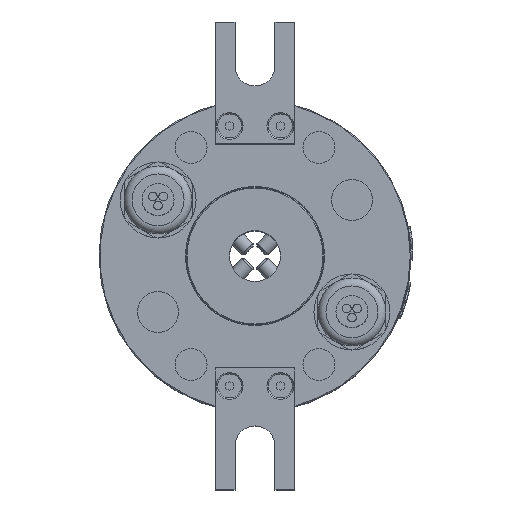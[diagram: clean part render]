
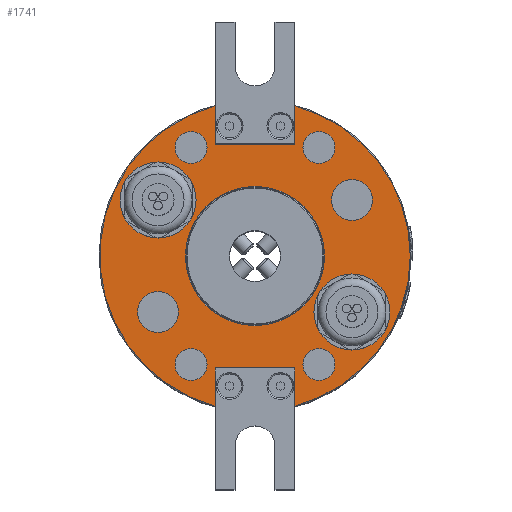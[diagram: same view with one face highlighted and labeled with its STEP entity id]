
A CAD part, top view. The second image highlights one B-rep face of the part: STEP entity #1741.
In plain terms, the highlighted planar face has unit normal (0, 0, 1).
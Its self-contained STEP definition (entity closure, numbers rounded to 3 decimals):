
#219=FACE_BOUND('',#3872,.T.);
#220=FACE_BOUND('',#3873,.T.);
#221=FACE_BOUND('',#3874,.T.);
#222=FACE_BOUND('',#3875,.T.);
#223=FACE_BOUND('',#3876,.T.);
#224=FACE_BOUND('',#3877,.T.);
#225=FACE_BOUND('',#3878,.T.);
#226=FACE_BOUND('',#3879,.T.);
#227=FACE_BOUND('',#3880,.T.);
#228=FACE_BOUND('',#3881,.T.);
#622=CIRCLE('',#15986,9.5);
#623=CIRCLE('',#15987,9.5);
#624=CIRCLE('',#15988,5.1);
#625=CIRCLE('',#15989,4.);
#626=CIRCLE('',#15990,4.);
#627=CIRCLE('',#15991,4.);
#628=CIRCLE('',#15992,5.1);
#629=CIRCLE('',#15993,17.4);
#630=CIRCLE('',#15994,4.);
#631=CIRCLE('',#15995,38.8);
#632=CIRCLE('',#15996,38.8);
#1741=ADVANCED_FACE('',(#219,#220,#221,#222,#223,#224,#225,#226,#227,#228),
#2415,.F.);
#2415=PLANE('',#15997);
#3872=EDGE_LOOP('',(#7612));
#3873=EDGE_LOOP('',(#7613));
#3874=EDGE_LOOP('',(#7614));
#3875=EDGE_LOOP('',(#7615));
#3876=EDGE_LOOP('',(#7616));
#3877=EDGE_LOOP('',(#7617));
#3878=EDGE_LOOP('',(#7618));
#3879=EDGE_LOOP('',(#7619));
#3880=EDGE_LOOP('',(#7620));
#3881=EDGE_LOOP('',(#7621,#7622,#7623,#7624,#7625,#7626,#7627,#7628));
#4655=LINE('',#28571,#5370);
#4656=LINE('',#28574,#5371);
#4657=LINE('',#28576,#5372);
#4658=LINE('',#28580,#5373);
#4659=LINE('',#28582,#5374);
#4660=LINE('',#28584,#5375);
#5370=VECTOR('',#17723,1.);
#5371=VECTOR('',#17724,1.);
#5372=VECTOR('',#17725,1.);
#5373=VECTOR('',#17728,1.);
#5374=VECTOR('',#17729,1.);
#5375=VECTOR('',#17730,1.);
#7612=ORIENTED_EDGE('',*,*,#13112,.F.);
#7613=ORIENTED_EDGE('',*,*,#13113,.F.);
#7614=ORIENTED_EDGE('',*,*,#13114,.T.);
#7615=ORIENTED_EDGE('',*,*,#13115,.T.);
#7616=ORIENTED_EDGE('',*,*,#13116,.T.);
#7617=ORIENTED_EDGE('',*,*,#13117,.T.);
#7618=ORIENTED_EDGE('',*,*,#13118,.T.);
#7619=ORIENTED_EDGE('',*,*,#13119,.T.);
#7620=ORIENTED_EDGE('',*,*,#13120,.F.);
#7621=ORIENTED_EDGE('',*,*,#13121,.F.);
#7622=ORIENTED_EDGE('',*,*,#13122,.F.);
#7623=ORIENTED_EDGE('',*,*,#13123,.F.);
#7624=ORIENTED_EDGE('',*,*,#13124,.T.);
#7625=ORIENTED_EDGE('',*,*,#13125,.F.);
#7626=ORIENTED_EDGE('',*,*,#13126,.F.);
#7627=ORIENTED_EDGE('',*,*,#13127,.F.);
#7628=ORIENTED_EDGE('',*,*,#13128,.T.);
#11148=VERTEX_POINT('',#28554);
#11149=VERTEX_POINT('',#28556);
#11150=VERTEX_POINT('',#28558);
#11151=VERTEX_POINT('',#28560);
#11152=VERTEX_POINT('',#28562);
#11153=VERTEX_POINT('',#28564);
#11154=VERTEX_POINT('',#28566);
#11155=VERTEX_POINT('',#28568);
#11156=VERTEX_POINT('',#28570);
#11157=VERTEX_POINT('',#28572);
#11158=VERTEX_POINT('',#28573);
#11159=VERTEX_POINT('',#28575);
#11160=VERTEX_POINT('',#28577);
#11161=VERTEX_POINT('',#28579);
#11162=VERTEX_POINT('',#28581);
#11163=VERTEX_POINT('',#28583);
#11164=VERTEX_POINT('',#28585);
#13112=EDGE_CURVE('',#11148,#11148,#622,.T.);
#13113=EDGE_CURVE('',#11149,#11149,#623,.T.);
#13114=EDGE_CURVE('',#11150,#11150,#624,.T.);
#13115=EDGE_CURVE('',#11151,#11151,#625,.T.);
#13116=EDGE_CURVE('',#11152,#11152,#626,.T.);
#13117=EDGE_CURVE('',#11153,#11153,#627,.T.);
#13118=EDGE_CURVE('',#11154,#11154,#628,.T.);
#13119=EDGE_CURVE('',#11155,#11155,#629,.T.);
#13120=EDGE_CURVE('',#11156,#11156,#630,.T.);
#13121=EDGE_CURVE('',#11157,#11158,#4655,.T.);
#13122=EDGE_CURVE('',#11159,#11157,#4656,.T.);
#13123=EDGE_CURVE('',#11160,#11159,#4657,.T.);
#13124=EDGE_CURVE('',#11160,#11161,#631,.T.);
#13125=EDGE_CURVE('',#11162,#11161,#4658,.T.);
#13126=EDGE_CURVE('',#11163,#11162,#4659,.T.);
#13127=EDGE_CURVE('',#11164,#11163,#4660,.T.);
#13128=EDGE_CURVE('',#11164,#11158,#632,.T.);
#15986=AXIS2_PLACEMENT_3D('',#28553,#17705,#17706);
#15987=AXIS2_PLACEMENT_3D('',#28555,#17707,#17708);
#15988=AXIS2_PLACEMENT_3D('',#28557,#17709,#17710);
#15989=AXIS2_PLACEMENT_3D('',#28559,#17711,#17712);
#15990=AXIS2_PLACEMENT_3D('',#28561,#17713,#17714);
#15991=AXIS2_PLACEMENT_3D('',#28563,#17715,#17716);
#15992=AXIS2_PLACEMENT_3D('',#28565,#17717,#17718);
#15993=AXIS2_PLACEMENT_3D('',#28567,#17719,#17720);
#15994=AXIS2_PLACEMENT_3D('',#28569,#17721,#17722);
#15995=AXIS2_PLACEMENT_3D('',#28578,#17726,#17727);
#15996=AXIS2_PLACEMENT_3D('',#28586,#17731,#17732);
#15997=AXIS2_PLACEMENT_3D('',#28587,#17733,#17734);
#17705=DIRECTION('',(0.,0.,1.));
#17706=DIRECTION('',(0.5,0.866,0.));
#17707=DIRECTION('',(0.,0.,1.));
#17708=DIRECTION('',(1.,0.,0.));
#17709=DIRECTION('',(0.,0.,-1.));
#17710=DIRECTION('',(1.,0.,0.));
#17711=DIRECTION('',(0.,0.,-1.));
#17712=DIRECTION('',(-1.,0.,0.));
#17713=DIRECTION('',(0.,0.,-1.));
#17714=DIRECTION('',(-1.,0.,0.));
#17715=DIRECTION('',(0.,0.,-1.));
#17716=DIRECTION('',(-1.,0.,0.));
#17717=DIRECTION('',(0.,0.,-1.));
#17718=DIRECTION('',(-1.,0.,0.));
#17719=DIRECTION('',(0.,0.,-1.));
#17720=DIRECTION('',(-1.,0.,0.));
#17721=DIRECTION('',(0.,0.,1.));
#17722=DIRECTION('',(-1.,0.,0.));
#17723=DIRECTION('',(0.,1.,0.));
#17724=DIRECTION('',(1.,0.,0.));
#17725=DIRECTION('',(0.,-1.,0.));
#17726=DIRECTION('',(0.,0.,1.));
#17727=DIRECTION('',(1.,0.,0.));
#17728=DIRECTION('',(0.,-1.,0.));
#17729=DIRECTION('',(-1.,0.,0.));
#17730=DIRECTION('',(0.,1.,0.));
#17731=DIRECTION('',(0.,0.,1.));
#17732=DIRECTION('',(1.,0.,0.));
#17733=DIRECTION('',(0.,0.,-1.));
#17734=DIRECTION('',(-1.,0.,0.));
#28553=CARTESIAN_POINT('',(-24.249,14.,82.));
#28554=CARTESIAN_POINT('',(-19.499,22.227,82.));
#28555=CARTESIAN_POINT('',(24.249,-14.,82.));
#28556=CARTESIAN_POINT('',(33.749,-14.,82.));
#28557=CARTESIAN_POINT('',(24.249,14.,82.));
#28558=CARTESIAN_POINT('',(29.349,14.,82.));
#28559=CARTESIAN_POINT('',(-16.,27.134,82.));
#28560=CARTESIAN_POINT('',(-20.,27.134,82.));
#28561=CARTESIAN_POINT('',(16.,-27.134,82.));
#28562=CARTESIAN_POINT('',(12.,-27.134,82.));
#28563=CARTESIAN_POINT('',(-16.,-27.134,82.));
#28564=CARTESIAN_POINT('',(-20.,-27.134,82.));
#28565=CARTESIAN_POINT('',(-24.249,-14.,82.));
#28566=CARTESIAN_POINT('',(-29.349,-14.,82.));
#28567=CARTESIAN_POINT('',(0.,0.,82.));
#28568=CARTESIAN_POINT('',(-17.4,0.,82.));
#28569=CARTESIAN_POINT('',(16.,27.134,82.));
#28570=CARTESIAN_POINT('',(12.,27.134,82.));
#28571=CARTESIAN_POINT('',(10.,28.,82.));
#28572=CARTESIAN_POINT('',(10.,28.,82.));
#28573=CARTESIAN_POINT('',(10.,37.489,82.));
#28574=CARTESIAN_POINT('',(-10.,28.,82.));
#28575=CARTESIAN_POINT('',(-10.,28.,82.));
#28576=CARTESIAN_POINT('',(-10.,58.5,82.));
#28577=CARTESIAN_POINT('',(-10.,37.489,82.));
#28578=CARTESIAN_POINT('',(0.,0.,82.));
#28579=CARTESIAN_POINT('',(-10.,-37.489,82.));
#28580=CARTESIAN_POINT('',(-10.,-28.,82.));
#28581=CARTESIAN_POINT('',(-10.,-28.,82.));
#28582=CARTESIAN_POINT('',(10.,-28.,82.));
#28583=CARTESIAN_POINT('',(10.,-28.,82.));
#28584=CARTESIAN_POINT('',(10.,-58.5,82.));
#28585=CARTESIAN_POINT('',(10.,-37.489,82.));
#28586=CARTESIAN_POINT('',(0.,0.,82.));
#28587=CARTESIAN_POINT('',(0.,0.,82.));
